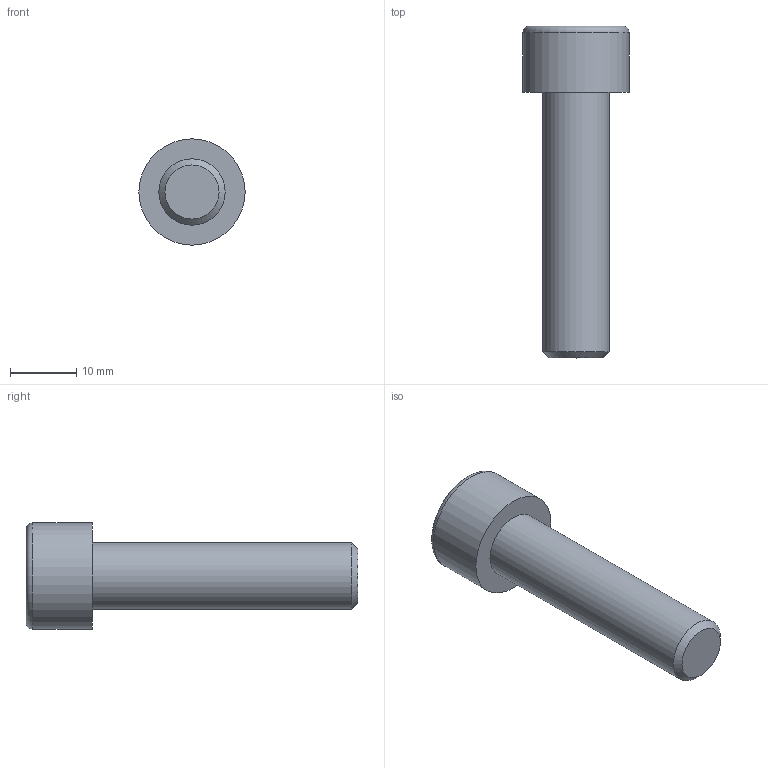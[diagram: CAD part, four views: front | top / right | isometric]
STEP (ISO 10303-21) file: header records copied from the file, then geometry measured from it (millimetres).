
FILE_DESCRIPTION(/* description */ (''),/* implementation_level */ '2;1');
FILE_NAME(/* name */ 'C:\Users\D\Documents\Inventor\各種小物\JIS\JIS B 1176 六角穴付きボルト\M10x40.stp',/* time_stamp */ '2022-05-09T18:52:13+09:00',/* author */ ('D'),/* organization */ (''),/* preprocessor_version */ 'ST-DEVELOPER v18',/* originating_system */ 'Autodesk Inventor 2020',/* authorisation */ '');
FILE_SCHEMA (('AUTOMOTIVE_DESIGN { 1 0 10303 214 3 1 1 }'));
Length unit declared in the file: millimetre
Products named in the file (1): M1.6x2.5
Bounding box: 16 x 50 x 16 mm (x, y, z)
Volume: 4794.2 mm3; surface area: 2275 mm2
Topology: 1 solids, 1 shells, 14 faces, 33 edges, 22 vertices
Faces by surface type: plane 9, cone 2, cylinder 2, torus 1
Full cylindrical faces by diameter (mm): 10 x1, 16 x1
Entity records: 435 total; most frequent: CARTESIAN_POINT 83, ORIENTED_EDGE 64, DIRECTION 64, EDGE_CURVE 32, AXIS2_PLACEMENT_3D 24, VERTEX_POINT 22, EDGE_LOOP 16, LINE 16
